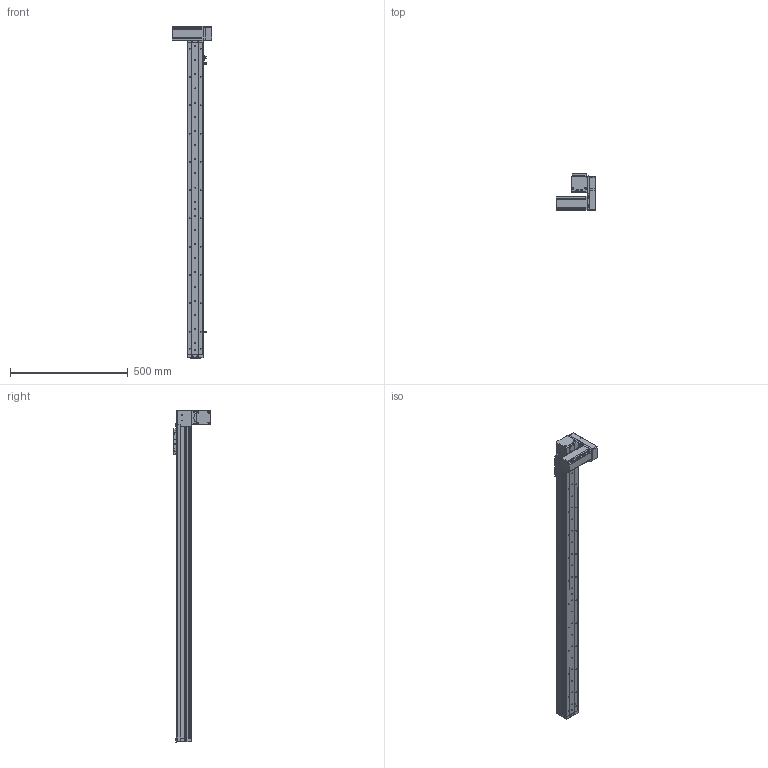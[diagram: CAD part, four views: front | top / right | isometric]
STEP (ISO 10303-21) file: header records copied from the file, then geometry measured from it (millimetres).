
FILE_DESCRIPTION (( 'STEP AP214' ), '1' );
FILE_NAME ('KSD68BS-S1150-MLD-CR.STEP', '2019-11-07T05:43:31', ( '微软用户' ), ( '微软中国' ), 'SwSTEP 2.0', 'SolidWorks 2014', '' );
FILE_SCHEMA (( 'AUTOMOTIVE_DESIGN' ));
Length unit declared in the file: millimetre
Products named in the file (14): KSD68BS 1150行程侧板全封闭; 68宽单导轨全封闭同步带端板; 68单导轨全封闭同步带电机座左; 68单导轨全封闭同步带安装板; 悵誘欶奻狟殏; 68宽马达安装板连板上折同步带; 感应片68宽全封闭; U倰嫖萇EEㄜSX672; 台达ECMA－C20604AS伺服电机（400W); KSD68BS 1150行程底板全封闭; KSD68BS-S1150-MLD-CR; KSD68BS 1150行程盖板全封闭; 68宽单导轨全封闭丝杆传动安装板1防护罩; 68遵裔啣揤啣1
Assembly tree (17 placements, depth 2):
  KSD68BS-S1150-MLD-CR
    KSD68BS 1150行程底板全封闭
    台达ECMA－C20604AS伺服电机（400W)
    U倰嫖萇EEㄜSX672  x3
    感应片68宽全封闭
    68宽马达安装板连板上折同步带
    悵誘欶奻狟殏
    68单导轨全封闭同步带安装板
    68单导轨全封闭同步带电机座左
    68宽单导轨全封闭同步带端板
    KSD68BS 1150行程侧板全封闭  x2
    68宽单导轨全封闭丝杆传动安装板1防护罩
    68遵裔啣揤啣1  x2
    KSD68BS 1150行程盖板全封闭
Bounding box: 167.2 x 155.5 x 1408.1 mm (x, y, z)
Volume: 2737892.2 mm3; surface area: 1067848.2 mm2
Topology: 18 solids, 18 shells, 1555 faces, 4445 edges, 2838 vertices
Faces by surface type: cylinder 750, plane 629, cone 176
Entity records: 49919 total; most frequent: CARTESIAN_POINT 8653, DIRECTION 7448, ORIENTED_EDGE 7126, EDGE_CURVE 3563, AXIS2_PLACEMENT_3D 2701, VERTEX_POINT 2336, LINE 2046, VECTOR 2046
